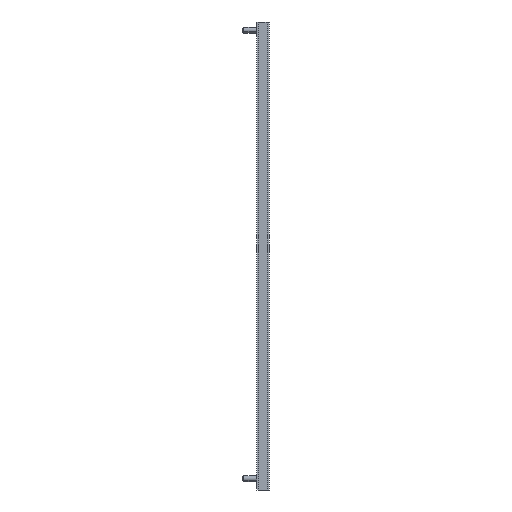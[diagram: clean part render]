
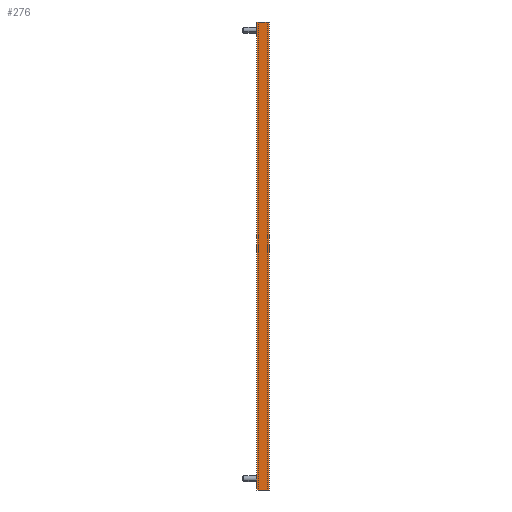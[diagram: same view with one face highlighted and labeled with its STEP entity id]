
A CAD part, left-side view. The second image highlights one B-rep face of the part: STEP entity #276.
In plain terms, the highlighted planar face has unit normal (-1, 0, 0).
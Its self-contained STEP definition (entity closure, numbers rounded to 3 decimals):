
#39 = DIRECTION ( 'NONE',  ( 0., -1., 0. ) ) ;
#45 = DIRECTION ( 'NONE',  ( -1., 0., 0. ) ) ;
#76 = VERTEX_POINT ( 'NONE', #1184 ) ;
#80 = CARTESIAN_POINT ( 'NONE',  ( -8., 0., 0. ) ) ;
#126 = DIRECTION ( 'NONE',  ( 0., 0., 1. ) ) ;
#276 = ADVANCED_FACE ( 'NONE', ( #2388 ), #658, .T. ) ;
#326 = VECTOR ( 'NONE', #2968, 1000. ) ;
#399 = CARTESIAN_POINT ( 'NONE',  ( -8., 12.5, 479. ) ) ;
#449 = VERTEX_POINT ( 'NONE', #3982 ) ;
#471 = ORIENTED_EDGE ( 'NONE', *, *, #2379, .T. ) ;
#485 = CARTESIAN_POINT ( 'NONE',  ( -8., 0., 0. ) ) ;
#616 = CARTESIAN_POINT ( 'NONE',  ( -8., 9.3, 0. ) ) ;
#658 = PLANE ( 'NONE',  #1283 ) ;
#781 = EDGE_CURVE ( 'NONE', #3954, #3240, #3581, .T. ) ;
#926 = EDGE_CURVE ( 'NONE', #76, #4382, #3696, .T. ) ;
#1014 = LINE ( 'NONE', #399, #1332 ) ;
#1178 = EDGE_LOOP ( 'NONE', ( #1335, #3301, #2757, #471, #2084, #3366, #1703, #3745 ) ) ;
#1184 = CARTESIAN_POINT ( 'NONE',  ( -8., 3.2, 479. ) ) ;
#1279 = VECTOR ( 'NONE', #126, 1000. ) ;
#1283 = AXIS2_PLACEMENT_3D ( 'NONE', #2524, #45, #3864 ) ;
#1332 = VECTOR ( 'NONE', #39, 1000. ) ;
#1335 = ORIENTED_EDGE ( 'NONE', *, *, #781, .F. ) ;
#1452 = DIRECTION ( 'NONE',  ( 0., 1., 0. ) ) ;
#1685 = CARTESIAN_POINT ( 'NONE',  ( -8., 9.3, 479. ) ) ;
#1703 = ORIENTED_EDGE ( 'NONE', *, *, #926, .T. ) ;
#1713 = VERTEX_POINT ( 'NONE', #3871 ) ;
#1949 = EDGE_CURVE ( 'NONE', #1713, #76, #3120, .T. ) ;
#1989 = CARTESIAN_POINT ( 'NONE',  ( -8., 12.5, 0. ) ) ;
#2000 = VERTEX_POINT ( 'NONE', #4157 ) ;
#2064 = CARTESIAN_POINT ( 'NONE',  ( -8., 12.5, 479. ) ) ;
#2084 = ORIENTED_EDGE ( 'NONE', *, *, #3038, .T. ) ;
#2200 = CARTESIAN_POINT ( 'NONE',  ( -8., 12.5, 479. ) ) ;
#2279 = EDGE_CURVE ( 'NONE', #2855, #449, #3185, .T. ) ;
#2379 = EDGE_CURVE ( 'NONE', #449, #2000, #2920, .T. ) ;
#2388 = FACE_OUTER_BOUND ( 'NONE', #1178, .T. ) ;
#2470 = VECTOR ( 'NONE', #2756, 1000. ) ;
#2495 = CARTESIAN_POINT ( 'NONE',  ( -8., 0., 479. ) ) ;
#2524 = CARTESIAN_POINT ( 'NONE',  ( -8., 0., 479. ) ) ;
#2592 = DIRECTION ( 'NONE',  ( 0., -1., 0. ) ) ;
#2756 = DIRECTION ( 'NONE',  ( 0., -1., 0. ) ) ;
#2757 = ORIENTED_EDGE ( 'NONE', *, *, #2279, .T. ) ;
#2855 = VERTEX_POINT ( 'NONE', #616 ) ;
#2862 = VECTOR ( 'NONE', #2592, 1000. ) ;
#2920 = LINE ( 'NONE', #485, #4431 ) ;
#2933 = CARTESIAN_POINT ( 'NONE',  ( -8., 0., 0. ) ) ;
#2968 = DIRECTION ( 'NONE',  ( 0., 1., 0. ) ) ;
#2978 = LINE ( 'NONE', #2933, #2862 ) ;
#3001 = VECTOR ( 'NONE', #3844, 1000. ) ;
#3038 = EDGE_CURVE ( 'NONE', #2000, #1713, #3824, .T. ) ;
#3120 = LINE ( 'NONE', #2495, #3403 ) ;
#3185 = LINE ( 'NONE', #80, #2470 ) ;
#3214 = EDGE_CURVE ( 'NONE', #3240, #4382, #1014, .T. ) ;
#3240 = VERTEX_POINT ( 'NONE', #2064 ) ;
#3301 = ORIENTED_EDGE ( 'NONE', *, *, #4310, .T. ) ;
#3366 = ORIENTED_EDGE ( 'NONE', *, *, #1949, .T. ) ;
#3394 = CARTESIAN_POINT ( 'NONE',  ( -8., 0., 479. ) ) ;
#3403 = VECTOR ( 'NONE', #1452, 1000. ) ;
#3455 = CARTESIAN_POINT ( 'NONE',  ( -8., 0., 479. ) ) ;
#3581 = LINE ( 'NONE', #2200, #1279 ) ;
#3696 = LINE ( 'NONE', #3394, #326 ) ;
#3745 = ORIENTED_EDGE ( 'NONE', *, *, #3214, .F. ) ;
#3824 = LINE ( 'NONE', #3455, #3001 ) ;
#3844 = DIRECTION ( 'NONE',  ( 0., 0., 1. ) ) ;
#3864 = DIRECTION ( 'NONE',  ( 0., 0., 1. ) ) ;
#3871 = CARTESIAN_POINT ( 'NONE',  ( -8., 0., 479. ) ) ;
#3904 = DIRECTION ( 'NONE',  ( 0., -1., 0. ) ) ;
#3954 = VERTEX_POINT ( 'NONE', #1989 ) ;
#3982 = CARTESIAN_POINT ( 'NONE',  ( -8., 3.2, 0. ) ) ;
#4157 = CARTESIAN_POINT ( 'NONE',  ( -8., 0., 0. ) ) ;
#4310 = EDGE_CURVE ( 'NONE', #3954, #2855, #2978, .T. ) ;
#4382 = VERTEX_POINT ( 'NONE', #1685 ) ;
#4431 = VECTOR ( 'NONE', #3904, 1000. ) ;
